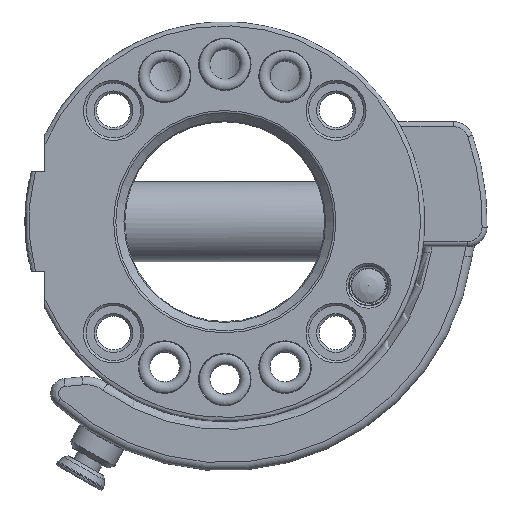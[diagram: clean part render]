
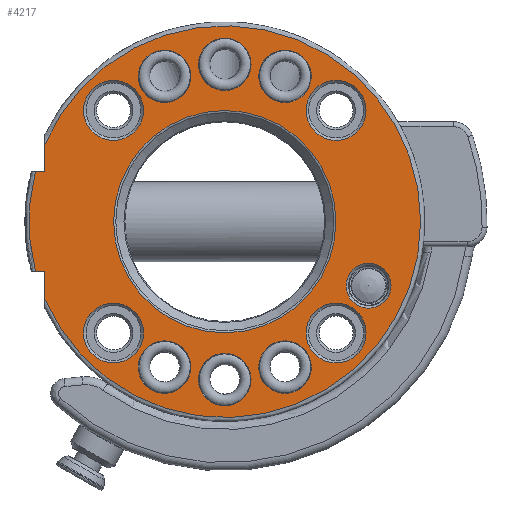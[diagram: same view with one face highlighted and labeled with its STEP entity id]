
A CAD part, front view. The second image highlights one B-rep face of the part: STEP entity #4217.
In plain terms, the highlighted planar face has unit normal (0, -1, 0).
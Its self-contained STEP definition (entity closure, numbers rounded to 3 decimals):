
#119=FACE_BOUND('',#672,.T.);
#120=FACE_BOUND('',#673,.T.);
#121=FACE_BOUND('',#674,.T.);
#122=FACE_BOUND('',#675,.T.);
#123=FACE_BOUND('',#676,.T.);
#124=FACE_BOUND('',#677,.T.);
#125=FACE_BOUND('',#678,.T.);
#126=FACE_BOUND('',#679,.T.);
#127=FACE_BOUND('',#680,.T.);
#128=FACE_BOUND('',#681,.T.);
#129=FACE_BOUND('',#682,.T.);
#130=FACE_BOUND('',#683,.T.);
#178=PLANE('',#4700);
#412=FACE_OUTER_BOUND('',#671,.T.);
#671=EDGE_LOOP('',(#3150,#3151,#3152,#3153,#3154,#3155));
#672=EDGE_LOOP('',(#3156));
#673=EDGE_LOOP('',(#3157));
#674=EDGE_LOOP('',(#3158));
#675=EDGE_LOOP('',(#3159));
#676=EDGE_LOOP('',(#3160));
#677=EDGE_LOOP('',(#3161,#3162));
#678=EDGE_LOOP('',(#3163));
#679=EDGE_LOOP('',(#3164));
#680=EDGE_LOOP('',(#3165));
#681=EDGE_LOOP('',(#3166));
#682=EDGE_LOOP('',(#3167));
#683=EDGE_LOOP('',(#3168));
#903=LINE('',#7405,#1069);
#904=LINE('',#7409,#1070);
#905=LINE('',#7411,#1071);
#906=LINE('',#7414,#1072);
#1069=VECTOR('',#5717,10.);
#1070=VECTOR('',#5720,10.);
#1071=VECTOR('',#5721,10.);
#1072=VECTOR('',#5724,10.);
#1382=CIRCLE('',#4699,4.5);
#1383=CIRCLE('',#4701,39.2);
#1384=CIRCLE('',#4702,39.2);
#1385=CIRCLE('',#4703,5.25);
#1386=CIRCLE('',#4704,5.25);
#1387=CIRCLE('',#4705,5.25);
#1388=CIRCLE('',#4706,6.);
#1389=CIRCLE('',#4707,6.);
#1390=CIRCLE('',#4708,22.249);
#1391=CIRCLE('',#4709,22.249);
#1392=CIRCLE('',#4710,6.);
#1393=CIRCLE('',#4711,6.);
#1394=CIRCLE('',#4712,5.25);
#1395=CIRCLE('',#4713,5.25);
#1396=CIRCLE('',#4714,5.25);
#1771=VERTEX_POINT('',#7399);
#1772=VERTEX_POINT('',#7403);
#1773=VERTEX_POINT('',#7404);
#1774=VERTEX_POINT('',#7406);
#1775=VERTEX_POINT('',#7408);
#1776=VERTEX_POINT('',#7410);
#1777=VERTEX_POINT('',#7412);
#1778=VERTEX_POINT('',#7415);
#1779=VERTEX_POINT('',#7417);
#1780=VERTEX_POINT('',#7419);
#1781=VERTEX_POINT('',#7421);
#1782=VERTEX_POINT('',#7423);
#1783=VERTEX_POINT('',#7425);
#1784=VERTEX_POINT('',#7426);
#1785=VERTEX_POINT('',#7429);
#1786=VERTEX_POINT('',#7431);
#1787=VERTEX_POINT('',#7433);
#1788=VERTEX_POINT('',#7435);
#1789=VERTEX_POINT('',#7437);
#2285=EDGE_CURVE('',#1771,#1771,#1382,.T.);
#2287=EDGE_CURVE('',#1772,#1773,#903,.T.);
#2288=EDGE_CURVE('',#1774,#1773,#1383,.T.);
#2289=EDGE_CURVE('',#1774,#1775,#904,.T.);
#2290=EDGE_CURVE('',#1775,#1776,#905,.T.);
#2291=EDGE_CURVE('',#1777,#1776,#1384,.T.);
#2292=EDGE_CURVE('',#1777,#1772,#906,.T.);
#2293=EDGE_CURVE('',#1778,#1778,#1385,.T.);
#2294=EDGE_CURVE('',#1779,#1779,#1386,.T.);
#2295=EDGE_CURVE('',#1780,#1780,#1387,.T.);
#2296=EDGE_CURVE('',#1781,#1781,#1388,.T.);
#2297=EDGE_CURVE('',#1782,#1782,#1389,.T.);
#2298=EDGE_CURVE('',#1783,#1784,#1390,.T.);
#2299=EDGE_CURVE('',#1784,#1783,#1391,.T.);
#2300=EDGE_CURVE('',#1785,#1785,#1392,.T.);
#2301=EDGE_CURVE('',#1786,#1786,#1393,.T.);
#2302=EDGE_CURVE('',#1787,#1787,#1394,.T.);
#2303=EDGE_CURVE('',#1788,#1788,#1395,.T.);
#2304=EDGE_CURVE('',#1789,#1789,#1396,.T.);
#3150=ORIENTED_EDGE('',*,*,#2287,.T.);
#3151=ORIENTED_EDGE('',*,*,#2288,.F.);
#3152=ORIENTED_EDGE('',*,*,#2289,.T.);
#3153=ORIENTED_EDGE('',*,*,#2290,.T.);
#3154=ORIENTED_EDGE('',*,*,#2291,.F.);
#3155=ORIENTED_EDGE('',*,*,#2292,.T.);
#3156=ORIENTED_EDGE('',*,*,#2293,.F.);
#3157=ORIENTED_EDGE('',*,*,#2294,.F.);
#3158=ORIENTED_EDGE('',*,*,#2295,.F.);
#3159=ORIENTED_EDGE('',*,*,#2296,.F.);
#3160=ORIENTED_EDGE('',*,*,#2297,.F.);
#3161=ORIENTED_EDGE('',*,*,#2298,.F.);
#3162=ORIENTED_EDGE('',*,*,#2299,.F.);
#3163=ORIENTED_EDGE('',*,*,#2300,.F.);
#3164=ORIENTED_EDGE('',*,*,#2301,.F.);
#3165=ORIENTED_EDGE('',*,*,#2302,.F.);
#3166=ORIENTED_EDGE('',*,*,#2303,.F.);
#3167=ORIENTED_EDGE('',*,*,#2304,.F.);
#3168=ORIENTED_EDGE('',*,*,#2285,.F.);
#4217=ADVANCED_FACE('',(#412,#119,#120,#121,#122,#123,#124,#125,#126,#127,
#128,#129,#130),#178,.T.);
#4699=AXIS2_PLACEMENT_3D('',#7400,#5712,#5713);
#4700=AXIS2_PLACEMENT_3D('',#7402,#5715,#5716);
#4701=AXIS2_PLACEMENT_3D('',#7407,#5718,#5719);
#4702=AXIS2_PLACEMENT_3D('',#7413,#5722,#5723);
#4703=AXIS2_PLACEMENT_3D('',#7416,#5725,#5726);
#4704=AXIS2_PLACEMENT_3D('',#7418,#5727,#5728);
#4705=AXIS2_PLACEMENT_3D('',#7420,#5729,#5730);
#4706=AXIS2_PLACEMENT_3D('',#7422,#5731,#5732);
#4707=AXIS2_PLACEMENT_3D('',#7424,#5733,#5734);
#4708=AXIS2_PLACEMENT_3D('',#7427,#5735,#5736);
#4709=AXIS2_PLACEMENT_3D('',#7428,#5737,#5738);
#4710=AXIS2_PLACEMENT_3D('',#7430,#5739,#5740);
#4711=AXIS2_PLACEMENT_3D('',#7432,#5741,#5742);
#4712=AXIS2_PLACEMENT_3D('',#7434,#5743,#5744);
#4713=AXIS2_PLACEMENT_3D('',#7436,#5745,#5746);
#4714=AXIS2_PLACEMENT_3D('',#7438,#5747,#5748);
#5712=DIRECTION('center_axis',(0.,-1.,0.));
#5713=DIRECTION('ref_axis',(-1.,0.,0.));
#5715=DIRECTION('center_axis',(0.,-1.,0.));
#5716=DIRECTION('ref_axis',(0.,0.,-1.));
#5717=DIRECTION('',(0.,0.,-1.));
#5718=DIRECTION('center_axis',(0.,1.,0.));
#5719=DIRECTION('ref_axis',(1.,0.,0.));
#5720=DIRECTION('',(0.,0.,-1.));
#5721=DIRECTION('',(-1.,0.,0.));
#5722=DIRECTION('center_axis',(0.,1.,0.));
#5723=DIRECTION('ref_axis',(1.,0.,0.));
#5724=DIRECTION('',(1.,0.,0.));
#5725=DIRECTION('center_axis',(0.,-1.,0.));
#5726=DIRECTION('ref_axis',(0.,0.,-1.));
#5727=DIRECTION('center_axis',(0.,-1.,0.));
#5728=DIRECTION('ref_axis',(0.,0.,1.));
#5729=DIRECTION('center_axis',(0.,-1.,0.));
#5730=DIRECTION('ref_axis',(0.383,0.,-0.924));
#5731=DIRECTION('center_axis',(0.,-1.,0.));
#5732=DIRECTION('ref_axis',(-1.,0.,0.));
#5733=DIRECTION('center_axis',(0.,-1.,0.));
#5734=DIRECTION('ref_axis',(-1.,0.,0.));
#5735=DIRECTION('center_axis',(0.,-1.,0.));
#5736=DIRECTION('ref_axis',(1.,0.,0.));
#5737=DIRECTION('center_axis',(0.,-1.,0.));
#5738=DIRECTION('ref_axis',(1.,0.,0.));
#5739=DIRECTION('center_axis',(0.,-1.,0.));
#5740=DIRECTION('ref_axis',(-1.,0.,0.));
#5741=DIRECTION('center_axis',(0.,-1.,0.));
#5742=DIRECTION('ref_axis',(-1.,0.,0.));
#5743=DIRECTION('center_axis',(0.,-1.,0.));
#5744=DIRECTION('ref_axis',(-0.383,0.,-0.924));
#5745=DIRECTION('center_axis',(0.,-1.,0.));
#5746=DIRECTION('ref_axis',(-0.383,0.,0.924));
#5747=DIRECTION('center_axis',(0.,-1.,0.));
#5748=DIRECTION('ref_axis',(0.383,0.,0.924));
#7399=CARTESIAN_POINT('',(33.277,0.,-12.812));
#7400=CARTESIAN_POINT('Origin',(28.777,0.,-12.812));
#7402=CARTESIAN_POINT('Origin',(-30.,0.,0.));
#7403=CARTESIAN_POINT('',(-36.,0.,-10.));
#7404=CARTESIAN_POINT('',(-36.,0.,-15.513));
#7405=CARTESIAN_POINT('',(-36.,0.,-5.));
#7406=CARTESIAN_POINT('',(-36.,0.,15.513));
#7407=CARTESIAN_POINT('Origin',(0.,0.,
0.));
#7408=CARTESIAN_POINT('',(-36.,0.,10.));
#7409=CARTESIAN_POINT('',(-36.,0.,8.718));
#7410=CARTESIAN_POINT('',(-37.903,0.,10.));
#7411=CARTESIAN_POINT('',(-33.,0.,10.));
#7412=CARTESIAN_POINT('',(-37.903,0.,-10.));
#7413=CARTESIAN_POINT('Origin',(0.,0.,
0.));
#7414=CARTESIAN_POINT('',(-34.365,0.,-10.));
#7415=CARTESIAN_POINT('',(0.,0.,-26.35));
#7416=CARTESIAN_POINT('Origin',(0.,0.,
-31.6));
#7417=CARTESIAN_POINT('',(0.,0.,26.25));
#7418=CARTESIAN_POINT('Origin',(0.,0.,
31.5));
#7419=CARTESIAN_POINT('',(10.045,0.,-24.252));
#7420=CARTESIAN_POINT('Origin',(12.055,0.,-29.102));
#7421=CARTESIAN_POINT('',(28.274,0.,-22.274));
#7422=CARTESIAN_POINT('Origin',(22.274,0.,-22.274));
#7423=CARTESIAN_POINT('',(-16.274,0.,22.274));
#7424=CARTESIAN_POINT('Origin',(-22.274,0.,
22.274));
#7425=CARTESIAN_POINT('',(-22.249,0.,0.));
#7426=CARTESIAN_POINT('',(0.,0.,22.249));
#7427=CARTESIAN_POINT('Origin',(0.,0.,
0.));
#7428=CARTESIAN_POINT('Origin',(0.,0.,
0.));
#7429=CARTESIAN_POINT('',(28.274,0.,22.274));
#7430=CARTESIAN_POINT('Origin',(22.274,0.,22.274));
#7431=CARTESIAN_POINT('',(-16.274,0.,-22.274));
#7432=CARTESIAN_POINT('Origin',(-22.274,0.,
-22.274));
#7433=CARTESIAN_POINT('',(-10.045,0.,-24.252));
#7434=CARTESIAN_POINT('Origin',(-12.055,0.,
-29.102));
#7435=CARTESIAN_POINT('',(-10.045,0.,24.252));
#7436=CARTESIAN_POINT('Origin',(-12.055,0.,
29.102));
#7437=CARTESIAN_POINT('',(10.045,0.,24.252));
#7438=CARTESIAN_POINT('Origin',(12.055,0.,29.102));
